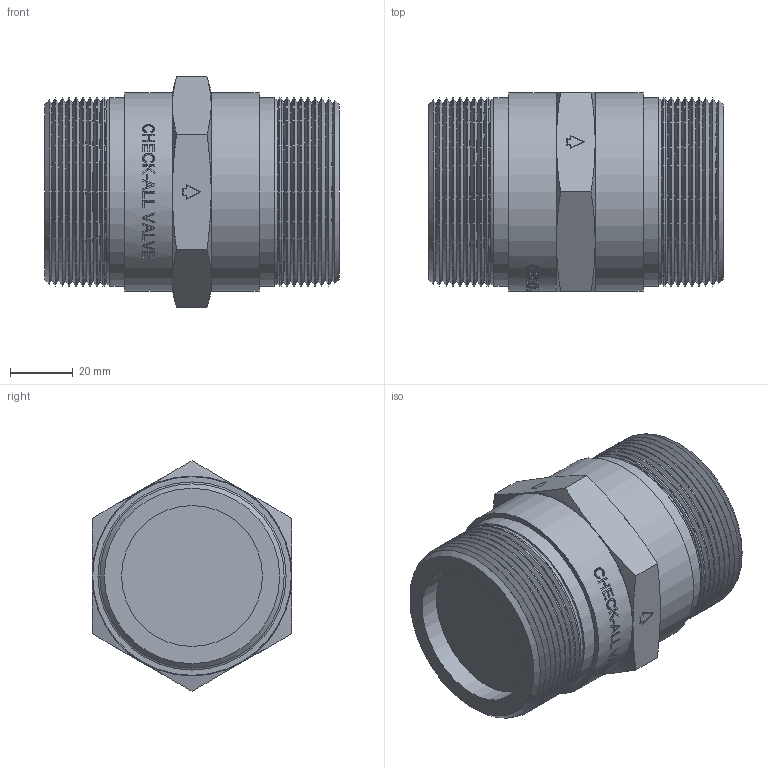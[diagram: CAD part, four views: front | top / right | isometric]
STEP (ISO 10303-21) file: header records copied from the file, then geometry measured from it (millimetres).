
FILE_DESCRIPTION( ( 'Unknown' ), '1' );
FILE_NAME( 'Y:/ENGR/3D Solid Edge Models/CN/CNK.stp', 'Unknown', ( 'Unknown' ), ( 'Unknown' ), 'PSStep 14.0', 'Unknown', ' ' );
FILE_SCHEMA( ( 'AUTOMOTIVE_DESIGN { 1 0 10303 214 1 1 1 1 }' ) );
Length unit declared in the file: inch
Products named in the file (1): 1
Bounding box: 93.65 x 63.5 x 73.32 mm (x, y, z)
Volume: 254875.7 mm3; surface area: 31535.1 mm2
Topology: 1 solids, 1 shells, 313 faces, 770 edges, 490 vertices
Faces by surface type: plane 158, cone 52, bspline 44, cylinder 39, torus 20
Full cylindrical faces by diameter (mm): 44.729 x2, 59.766 x16, 63.119 x2
Entity records: 13073 total; most frequent: CARTESIAN_POINT 4537, ORIENTED_EDGE 1348, DIRECTION 868, EDGE_CURVE 674, VERTEX_POINT 474, B_SPLINE_CURVE_WITH_KNOTS 444, EDGE_LOOP 424, AXIS2_PLACEMENT_3D 368
